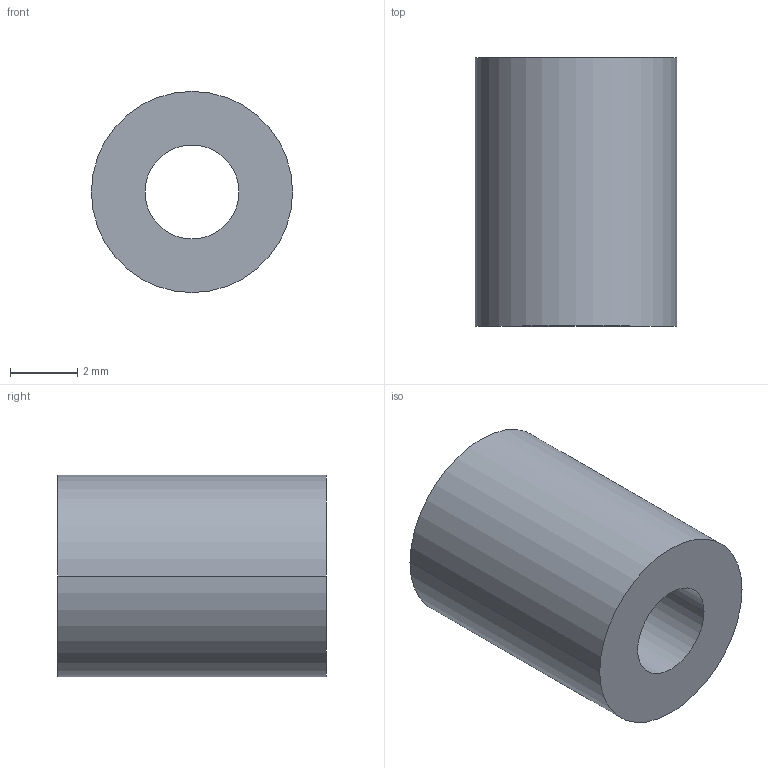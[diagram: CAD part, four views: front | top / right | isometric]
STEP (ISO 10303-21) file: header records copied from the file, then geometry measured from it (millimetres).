
FILE_DESCRIPTION (( 'STEP AP203' ), '1' );
FILE_NAME ('30800.WPP6B2.8.step', '2019-01-23T22:17:41', ( '' ), ( '' ), 'SwSTEP 2.0', 'SolidWorks 2017', '' );
FILE_SCHEMA (( 'CONFIG_CONTROL_DESIGN' ));
Length unit declared in the file: millimetre
Products named in the file (1): 30800.WPP6B2.8
Bounding box: 6 x 8 x 6 mm (x, y, z)
Volume: 174.7 mm3; surface area: 262.1 mm2
Topology: 1 solids, 1 shells, 8 faces, 16 edges, 10 vertices
Faces by surface type: cylinder 4, torus 2, plane 2
Entity records: 297 total; most frequent: DIRECTION 46, CARTESIAN_POINT 35, ORIENTED_EDGE 32, AXIS2_PLACEMENT_3D 21, EDGE_CURVE 16, CIRCLE 12, VERTEX_POINT 10, EDGE_LOOP 10
